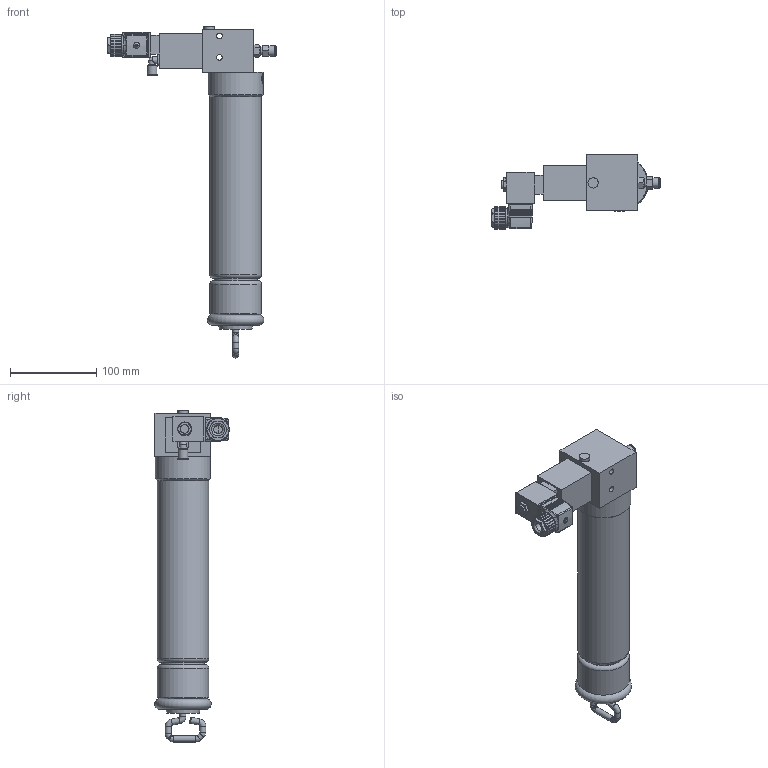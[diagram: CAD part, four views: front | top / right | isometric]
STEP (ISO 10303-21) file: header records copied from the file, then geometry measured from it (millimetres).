
FILE_DESCRIPTION (( 'STEP AP214' ), '1' );
FILE_NAME ('1430_0106_01SX_XXX.STEP', '2026-04-21T13:00:33', ( '' ), ( '' ), 'SwSTEP 2.0', 'SolidWorks 2022', '' );
FILE_SCHEMA (( 'AUTOMOTIVE_DESIGN' ));
Length unit declared in the file: millimetre
Products named in the file (11): Verschlussstopfen_1_8; 1430_0106_01SX_XXX; DPF_Pumpenkoerper; DPF_Kartusche; DPF_Kartuschenbehaelter; DPF_10_1; TRO_Magnetventil_Stecker; DPF_Luftverschraubung; DPF_Sensor_Anschluss; DPF_Kartuschenhebel; 04E33_1801_MAGNETSPULE_FORM-A
Assembly tree (10 placements, depth 3):
  1430_0106_01SX_XXX
    DPF_Kartuschenbehaelter
      DPF_Kartuschenhebel
      DPF_Kartusche
      DPF_Sensor_Anschluss
      Verschlussstopfen_1_8
    DPF_Pumpenkoerper
    TRO_Magnetventil_Stecker
    04E33_1801_MAGNETSPULE_FORM-A
    DPF_10_1
    DPF_Luftverschraubung
Bounding box: 195.78 x 86.43 x 385.59 mm (x, y, z)
Volume: 1188140 mm3; surface area: 121674.2 mm2
Topology: 12 solids, 12 shells, 916 faces, 2391 edges, 1547 vertices
Faces by surface type: plane 513, bspline 190, cylinder 168, cone 33, torus 12
Full cylindrical faces by diameter (mm): 0.7 x3, 1.5 x3, 2.5 x1, 6 x2, 6.2 x1, 6.25 x1, 6.6 x2, 6.75 x1, 7 x10, 8 x2, 8.5 x1, 9.5 x2, 9.7 x1, 10 x4, 10.3 x1, 10.5 x1, 11 x2, 11.2 x1, 12 x3, 16 x1, 16.345 x1, 22 x1, 50 x1, 60 x2, 64 x1
Entity records: 38173 total; most frequent: CARTESIAN_POINT 15743, ORIENTED_EDGE 4526, DIRECTION 3690, EDGE_CURVE 2263, VERTEX_POINT 1521, VECTOR 1430, LINE 1430, AXIS2_PLACEMENT_3D 1130
